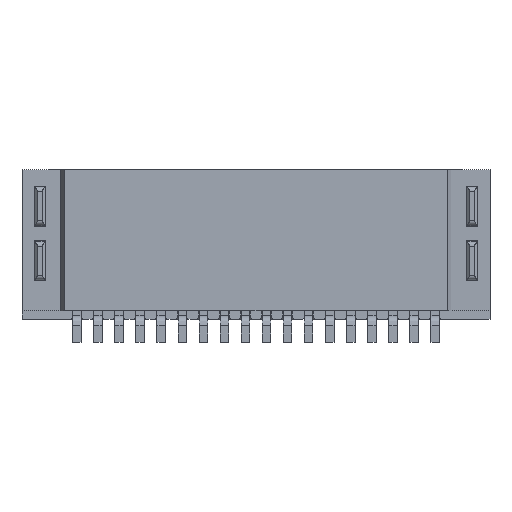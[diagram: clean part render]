
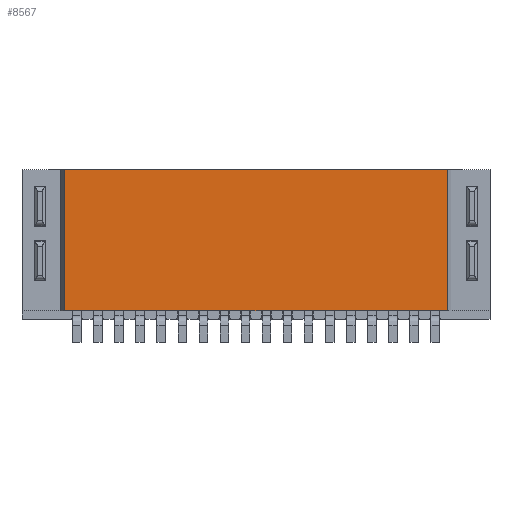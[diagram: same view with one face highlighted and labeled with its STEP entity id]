
A CAD part, front view. The second image highlights one B-rep face of the part: STEP entity #8567.
In plain terms, the highlighted planar face has unit normal (0, -1, 0).
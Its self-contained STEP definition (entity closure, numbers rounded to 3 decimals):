
#2688=DIRECTION('',(-1.,0.,0.));
#2689=VECTOR('',#2688,9.065);
#2690=CARTESIAN_POINT('',(4.533,0.,3.55));
#2691=LINE('',#2690,#2689);
#2748=DIRECTION('',(-1.,0.,0.));
#2749=VECTOR('',#2748,9.065);
#2750=CARTESIAN_POINT('',(4.533,0.,0.2));
#2751=LINE('',#2750,#2749);
#2752=DIRECTION('',(0.,0.,-1.));
#2753=VECTOR('',#2752,3.35);
#2754=CARTESIAN_POINT('',(4.533,0.,3.55));
#2755=LINE('',#2754,#2753);
#2756=DIRECTION('',(0.,0.,-1.));
#2757=VECTOR('',#2756,3.35);
#2758=CARTESIAN_POINT('',(-4.533,0.,3.55));
#2759=LINE('',#2758,#2757);
#4348=CARTESIAN_POINT('',(-4.533,0.,0.2));
#4349=VERTEX_POINT('',#4348);
#4350=CARTESIAN_POINT('',(4.533,0.,0.2));
#4351=VERTEX_POINT('',#4350);
#4604=CARTESIAN_POINT('',(4.533,0.,3.55));
#4605=CARTESIAN_POINT('',(-4.533,0.,3.55));
#4606=VERTEX_POINT('',#4604);
#4607=VERTEX_POINT('',#4605);
#8554=CARTESIAN_POINT('',(-4.533,0.,0.));
#8555=DIRECTION('',(0.,-1.,0.));
#8556=DIRECTION('',(1.,0.,0.));
#8557=AXIS2_PLACEMENT_3D('',#8554,#8555,#8556);
#8558=PLANE('',#8557);
#8559=ORIENTED_EDGE('',*,*,#7720,.T.);
#8561=ORIENTED_EDGE('',*,*,#8560,.F.);
#8562=ORIENTED_EDGE('',*,*,#8525,.F.);
#8564=ORIENTED_EDGE('',*,*,#8563,.T.);
#8565=EDGE_LOOP('',(#8559,#8561,#8562,#8564));
#8566=FACE_OUTER_BOUND('',#8565,.F.);
#8567=ADVANCED_FACE('',(#8566),#8558,.T.);
#7720=EDGE_CURVE('',#4351,#4349,#2751,.T.);
#8525=EDGE_CURVE('',#4606,#4607,#2691,.T.);
#8560=EDGE_CURVE('',#4607,#4349,#2759,.T.);
#8563=EDGE_CURVE('',#4606,#4351,#2755,.T.);
